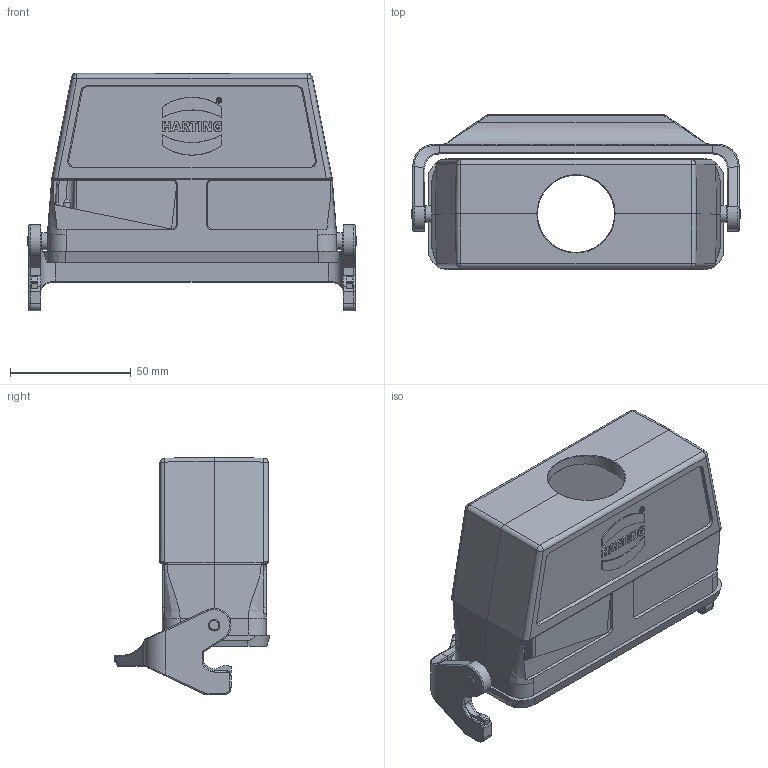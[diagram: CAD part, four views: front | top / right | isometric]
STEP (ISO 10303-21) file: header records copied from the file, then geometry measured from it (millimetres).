
FILE_DESCRIPTION(/* description */ (''),/* implementation_level */ '2;1');
FILE_NAME(/* name */ '100556582ugm000_c.stp',/* time_stamp */ '2022-03-11T19:22:03+01:00',/* author */ (''),/* organization */ (''),/* preprocessor_version */ 'ST-DEVELOPER v16.7',/* originating_system */ 'SIEMENS PLM Software NX 1911',/* authorisation */ '');
FILE_SCHEMA (('AUTOMOTIVE_DESIGN { 1 0 10303 214 3 1 1 1 }'));
Length unit declared in the file: millimetre
Products named in the file (1): 100556582ugm000_c
Bounding box: 136.4 x 64.59 x 98.5 mm (x, y, z)
Volume: 123808.8 mm3; surface area: 64491.8 mm2
Topology: 2 solids, 2 shells, 515 faces, 1321 edges, 808 vertices
Faces by surface type: plane 232, cylinder 121, bspline 104, cone 42, torus 8, sphere 8
Full cylindrical faces by diameter (mm): 3 x4, 4.8 x4, 7 x2, 32 x1
Entity records: 19252 total; most frequent: CARTESIAN_POINT 6448, ORIENTED_EDGE 2530, DIRECTION 2229, EDGE_CURVE 1265, VERTEX_POINT 807, AXIS2_PLACEMENT_3D 766, LINE 697, VECTOR 697
